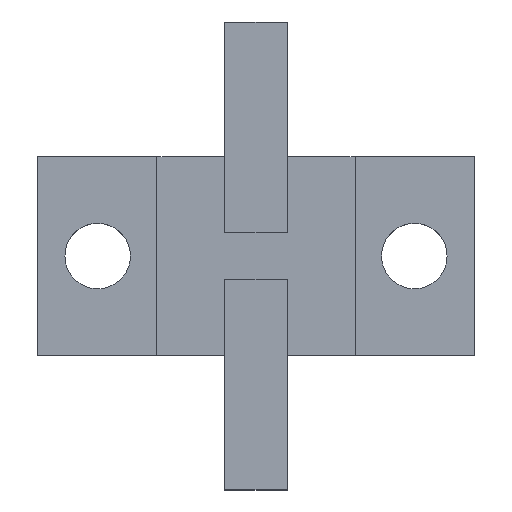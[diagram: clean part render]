
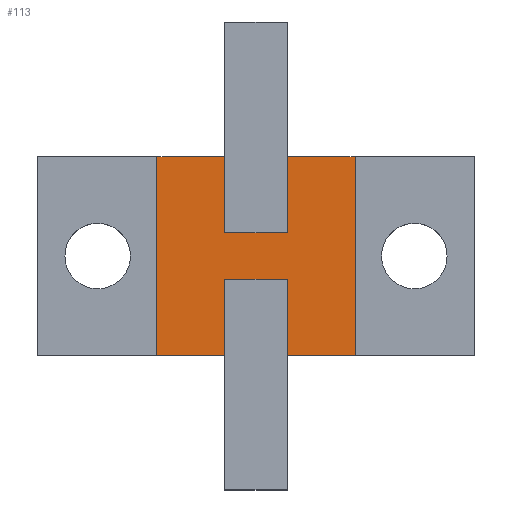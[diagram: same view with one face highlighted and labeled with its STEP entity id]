
A CAD part, top view. The second image highlights one B-rep face of the part: STEP entity #113.
In plain terms, the highlighted planar face has unit normal (0, 0, 1).
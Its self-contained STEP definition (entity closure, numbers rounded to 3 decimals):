
#113=ADVANCED_FACE('',(#318),#320,.T.);
#318=FACE_BOUND('',#319,.T.);
#319=EDGE_LOOP('',(#653,#654,#655,#656,#657,#658,#659,#660,#661,#662,#663,#664));
#320=PLANE('',#321);
#321=AXIS2_PLACEMENT_3D('',#322,#323,#324);
#322=CARTESIAN_POINT('',(0.,0.,4.4));
#323=DIRECTION('',(0.,0.,1.));
#324=DIRECTION('',(-1.,0.,0.));
#653=ORIENTED_EDGE('',*,*,#899,.T.);
#654=ORIENTED_EDGE('',*,*,#900,.T.);
#655=ORIENTED_EDGE('',*,*,#901,.T.);
#656=ORIENTED_EDGE('',*,*,#902,.T.);
#657=ORIENTED_EDGE('',*,*,#903,.T.);
#658=ORIENTED_EDGE('',*,*,#888,.T.);
#659=ORIENTED_EDGE('',*,*,#898,.T.);
#660=ORIENTED_EDGE('',*,*,#890,.T.);
#661=ORIENTED_EDGE('',*,*,#904,.T.);
#662=ORIENTED_EDGE('',*,*,#905,.T.);
#663=ORIENTED_EDGE('',*,*,#906,.T.);
#664=ORIENTED_EDGE('',*,*,#907,.T.);
#888=EDGE_CURVE('',#1046,#1053,#1055,.T.);
#890=EDGE_CURVE('',#1059,#1057,#1060,.T.);
#898=EDGE_CURVE('',#1053,#1059,#1070,.T.);
#899=EDGE_CURVE('',#1071,#1072,#1073,.T.);
#900=EDGE_CURVE('',#1072,#1074,#1075,.T.);
#901=EDGE_CURVE('',#1074,#1076,#1077,.T.);
#902=EDGE_CURVE('',#1076,#1078,#1079,.T.);
#903=EDGE_CURVE('',#1078,#1046,#1080,.T.);
#904=EDGE_CURVE('',#1057,#1081,#1082,.T.);
#905=EDGE_CURVE('',#1081,#1083,#1084,.T.);
#906=EDGE_CURVE('',#1083,#1085,#1086,.T.);
#907=EDGE_CURVE('',#1085,#1071,#1087,.T.);
#1046=VERTEX_POINT('',#1197);
#1053=VERTEX_POINT('',#1210);
#1055=LINE('',#1214,#1215);
#1057=VERTEX_POINT('',#1218);
#1059=VERTEX_POINT('',#1222);
#1060=LINE('',#1223,#1224);
#1070=LINE('',#1249,#1250);
#1071=VERTEX_POINT('',#1252);
#1072=VERTEX_POINT('',#1253);
#1073=LINE('',#1254,#1255);
#1074=VERTEX_POINT('',#1257);
#1075=LINE('',#1258,#1259);
#1076=VERTEX_POINT('',#1261);
#1077=LINE('',#1262,#1263);
#1078=VERTEX_POINT('',#1265);
#1079=LINE('',#1266,#1267);
#1080=LINE('',#1269,#1270);
#1081=VERTEX_POINT('',#1272);
#1082=LINE('',#1273,#1274);
#1083=VERTEX_POINT('',#1276);
#1084=LINE('',#1277,#1278);
#1085=VERTEX_POINT('',#1280);
#1086=LINE('',#1281,#1282);
#1087=LINE('',#1284,#1285);
#1197=CARTESIAN_POINT('',(-2.,-6.35,4.4));
#1210=CARTESIAN_POINT('',(-2.,-1.5,4.4));
#1214=CARTESIAN_POINT('',(-2.,-6.35,4.4));
#1215=VECTOR('',#1216,1.);
#1216=DIRECTION('',(0.,1.,0.));
#1218=CARTESIAN_POINT('',(2.,-6.35,4.4));
#1222=CARTESIAN_POINT('',(2.,-1.5,4.4));
#1223=CARTESIAN_POINT('',(2.,-1.5,4.4));
#1224=VECTOR('',#1225,1.);
#1225=DIRECTION('',(0.,-1.,0.));
#1249=CARTESIAN_POINT('',(-2.,-1.5,4.4));
#1250=VECTOR('',#1251,1.);
#1251=DIRECTION('',(1.,0.,0.));
#1252=CARTESIAN_POINT('',(2.,1.5,4.4));
#1253=CARTESIAN_POINT('',(-2.,1.5,4.4));
#1254=CARTESIAN_POINT('',(2.,1.5,4.4));
#1255=VECTOR('',#1256,1.);
#1256=DIRECTION('',(-1.,0.,0.));
#1257=CARTESIAN_POINT('',(-2.,6.35,4.4));
#1258=CARTESIAN_POINT('',(-2.,1.5,4.4));
#1259=VECTOR('',#1260,1.);
#1260=DIRECTION('',(0.,1.,0.));
#1261=CARTESIAN_POINT('',(-6.35,6.35,4.4));
#1262=CARTESIAN_POINT('',(-2.,6.35,4.4));
#1263=VECTOR('',#1264,1.);
#1264=DIRECTION('',(-1.,0.,0.));
#1265=CARTESIAN_POINT('',(-6.35,-6.35,4.4));
#1266=CARTESIAN_POINT('',(-6.35,6.35,4.4));
#1267=VECTOR('',#1268,1.);
#1268=DIRECTION('',(0.,-1.,0.));
#1269=CARTESIAN_POINT('',(-6.35,-6.35,4.4));
#1270=VECTOR('',#1271,1.);
#1271=DIRECTION('',(1.,0.,0.));
#1272=CARTESIAN_POINT('',(6.35,-6.35,4.4));
#1273=CARTESIAN_POINT('',(2.,-6.35,4.4));
#1274=VECTOR('',#1275,1.);
#1275=DIRECTION('',(1.,0.,0.));
#1276=CARTESIAN_POINT('',(6.35,6.35,4.4));
#1277=CARTESIAN_POINT('',(6.35,-6.35,4.4));
#1278=VECTOR('',#1279,1.);
#1279=DIRECTION('',(0.,1.,0.));
#1280=CARTESIAN_POINT('',(2.,6.35,4.4));
#1281=CARTESIAN_POINT('',(6.35,6.35,4.4));
#1282=VECTOR('',#1283,1.);
#1283=DIRECTION('',(-1.,0.,0.));
#1284=CARTESIAN_POINT('',(2.,6.35,4.4));
#1285=VECTOR('',#1286,1.);
#1286=DIRECTION('',(0.,-1.,0.));
